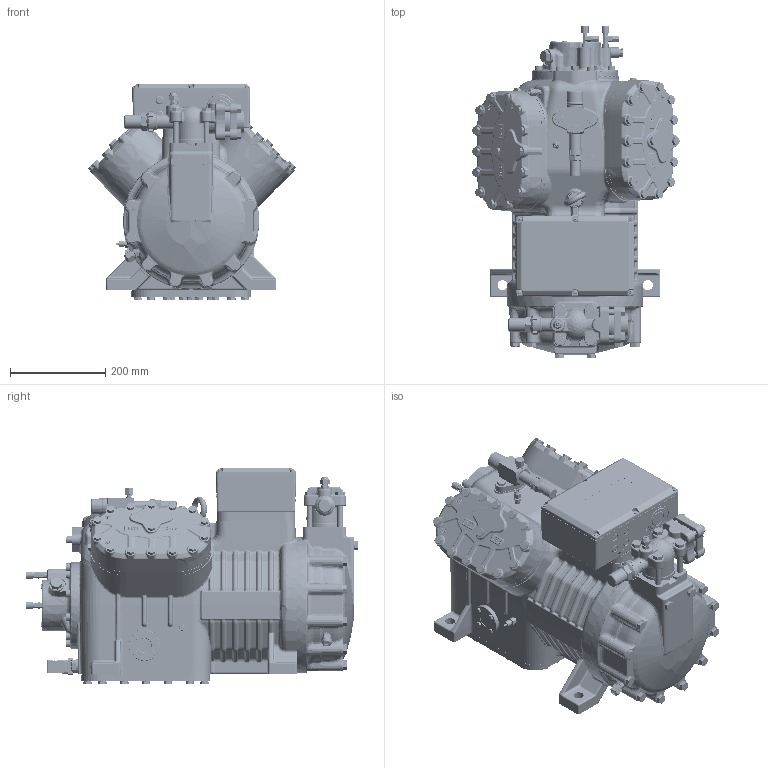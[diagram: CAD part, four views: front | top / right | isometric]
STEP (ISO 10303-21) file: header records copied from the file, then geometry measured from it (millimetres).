
FILE_DESCRIPTION(('TFLEX Exchange Step'),'2;1');
FILE_NAME('4H-15.3Z.stp', '2024-12-02T17:34:04+03:00',('RUCO3143'),('Unknown organisation'),'TFLEX Exchange 2024.6','T-FLEX CAD','Unknown authorisation');
FILE_SCHEMA( ('AUTOMOTIVE_DESIGN { 1 0 10303 214 1 1 1 1 }') );
Length unit declared in the file: millimetre
Bounding box: 435.53 x 696.6 x 455 mm (x, y, z)
Volume: 50616465.9 mm3; surface area: 1640328.3 mm2
Topology: 6 solids, 19 shells, 9729 faces, 23947 edges, 14518 vertices
Faces by surface type: plane 3540, bspline 2577, cylinder 1651, cone 1287, torus 548, sphere 126
Full cylindrical faces by diameter (mm): 4 x2, 4.5 x1, 6.5 x1, 7 x5, 8 x1, 8.5 x8, 8.74 x6, 9 x6, 9.41 x1, 10 x11, 10.5 x5, 11 x8, 11.113 x1, 12 x10, 12.5 x1, 13 x10, 13.407 x1, 14 x1, 15 x2, 16 x68, 17 x9, 18 x3, 21 x4, 22.5 x1, 23 x1, 23.96 x1, 24 x1, 26.2 x1, 27 x3, 28.7 x1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
Entity records: 433564 total; most frequent: CARTESIAN_POINT 232897, ORIENTED_EDGE 47550, DIRECTION 33249, EDGE_CURVE 23775, VERTEX_POINT 14518, AXIS2_PLACEMENT_3D 12688, EDGE_LOOP 10207, FACE_BOUND 10207
